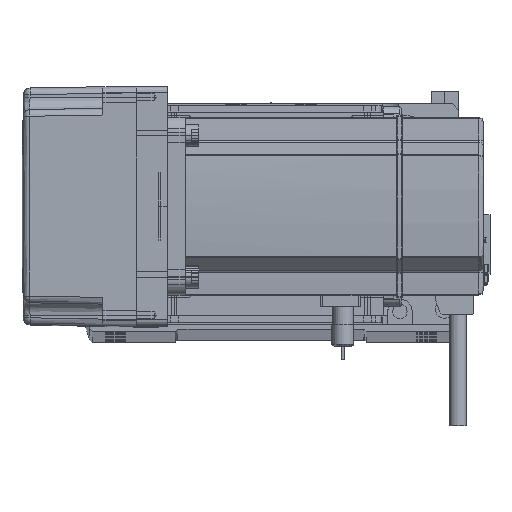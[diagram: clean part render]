
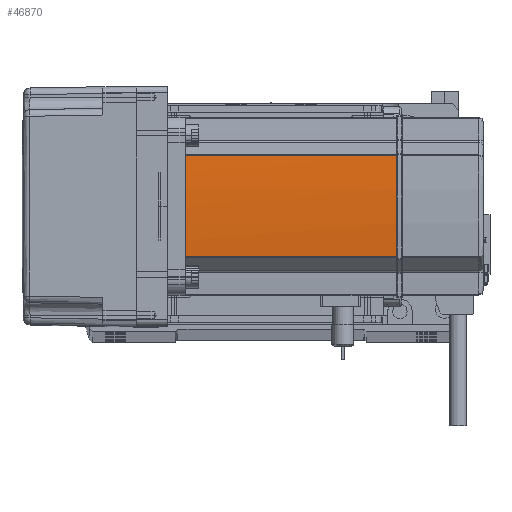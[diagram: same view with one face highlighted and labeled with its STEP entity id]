
A CAD part, top view. The second image highlights one B-rep face of the part: STEP entity #46870.
In plain terms, the highlighted cylindrical face has radius 270 mm (diameter 540 mm), a partial arc.
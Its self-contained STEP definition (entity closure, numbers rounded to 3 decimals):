
#3075 = CARTESIAN_POINT ( 'NONE',  ( 40., 0.127, 134. ) ) ;
#3572 = AXIS2_PLACEMENT_3D ( 'NONE', #25783, #60758, #50870 ) ;
#3838 = CIRCLE ( 'NONE', #10787, 270. ) ;
#5414 = LINE ( 'NONE', #45296, #62756 ) ;
#7434 = CARTESIAN_POINT ( 'NONE',  ( 39.042, -22.724, 58. ) ) ;
#8119 = CIRCLE ( 'NONE', #37743, 270. ) ;
#8228 = AXIS2_PLACEMENT_3D ( 'NONE', #42951, #28691, #23002 ) ;
#8327 = CARTESIAN_POINT ( 'NONE',  ( 40., -0.042, 134. ) ) ;
#10490 = VERTEX_POINT ( 'NONE', #25479 ) ;
#10787 = AXIS2_PLACEMENT_3D ( 'NONE', #65004, #44360, #14695 ) ;
#10842 = EDGE_CURVE ( 'NONE', #43451, #10490, #3838, .T. ) ;
#11343 = CARTESIAN_POINT ( 'NONE',  ( -230., 0., 39. ) ) ;
#12055 = CARTESIAN_POINT ( 'NONE',  ( 39.042, 22.724, 39. ) ) ;
#13349 = CARTESIAN_POINT ( 'NONE',  ( 40., 0.042, 134. ) ) ;
#14049 = CARTESIAN_POINT ( 'NONE',  ( 40., -0.127, 134. ) ) ;
#14695 = DIRECTION ( 'NONE',  ( -1., 0., 0. ) ) ;
#19059 = VECTOR ( 'NONE', #27582, 1000. ) ;
#19707 = CARTESIAN_POINT ( 'NONE',  ( 40., 0.127, 134. ) ) ;
#21439 = DIRECTION ( 'NONE',  ( 0., 0., -1. ) ) ;
#22768 = CARTESIAN_POINT ( 'NONE',  ( 39.042, -22.724, 39. ) ) ;
#23002 = DIRECTION ( 'NONE',  ( -1., 0., 0. ) ) ;
#25479 = CARTESIAN_POINT ( 'NONE',  ( 39.042, -22.724, 134. ) ) ;
#25783 = CARTESIAN_POINT ( 'NONE',  ( -230., 0., 134. ) ) ;
#26652 = EDGE_CURVE ( 'NONE', #10490, #44016, #63088, .T. ) ;
#27582 = DIRECTION ( 'NONE',  ( 0., 0., -1. ) ) ;
#28691 = DIRECTION ( 'NONE',  ( 0., 0., -1. ) ) ;
#33102 = FACE_OUTER_BOUND ( 'NONE', #47775, .T. ) ;
#34047 = B_SPLINE_CURVE_WITH_KNOTS ( 'NONE', 3,
 ( #39045, #8327, #13349, #3075 ),
 .UNSPECIFIED., .F., .F.,
 ( 4, 4 ),
 ( 0., 1. ),
 .UNSPECIFIED. ) ;
#37307 = ORIENTED_EDGE ( 'NONE', *, *, #10842, .T. ) ;
#37743 = AXIS2_PLACEMENT_3D ( 'NONE', #11343, #21439, #41391 ) ;
#38522 = VERTEX_POINT ( 'NONE', #12055 ) ;
#38638 = EDGE_CURVE ( 'NONE', #43451, #50833, #34047, .T. ) ;
#39045 = CARTESIAN_POINT ( 'NONE',  ( 40., -0.127, 134. ) ) ;
#39729 = EDGE_CURVE ( 'NONE', #38522, #47024, #5414, .T. ) ;
#41391 = DIRECTION ( 'NONE',  ( -1., 0., 0. ) ) ;
#42951 = CARTESIAN_POINT ( 'NONE',  ( -230., 0., 58. ) ) ;
#43451 = VERTEX_POINT ( 'NONE', #14049 ) ;
#44016 = VERTEX_POINT ( 'NONE', #22768 ) ;
#44360 = DIRECTION ( 'NONE',  ( 0., 0., -1. ) ) ;
#44923 = CARTESIAN_POINT ( 'NONE',  ( 39.042, 22.724, 134. ) ) ;
#45088 = DIRECTION ( 'NONE',  ( 0., 0., 1. ) ) ;
#45296 = CARTESIAN_POINT ( 'NONE',  ( 39.042, 22.724, 58. ) ) ;
#46870 = ADVANCED_FACE ( 'NONE', ( #33102 ), #47219, .T. ) ;
#47024 = VERTEX_POINT ( 'NONE', #44923 ) ;
#47219 = CYLINDRICAL_SURFACE ( 'NONE', #8228, 270. ) ;
#47775 = EDGE_LOOP ( 'NONE', ( #47841, #60252, #64959, #59382, #49063, #37307 ) ) ;
#47841 = ORIENTED_EDGE ( 'NONE', *, *, #26652, .T. ) ;
#49063 = ORIENTED_EDGE ( 'NONE', *, *, #38638, .F. ) ;
#50833 = VERTEX_POINT ( 'NONE', #19707 ) ;
#50870 = DIRECTION ( 'NONE',  ( -1., 0., 0. ) ) ;
#58848 = EDGE_CURVE ( 'NONE', #38522, #44016, #8119, .T. ) ;
#59382 = ORIENTED_EDGE ( 'NONE', *, *, #62326, .T. ) ;
#60252 = ORIENTED_EDGE ( 'NONE', *, *, #58848, .F. ) ;
#60758 = DIRECTION ( 'NONE',  ( 0., 0., -1. ) ) ;
#60850 = CIRCLE ( 'NONE', #3572, 270. ) ;
#62326 = EDGE_CURVE ( 'NONE', #47024, #50833, #60850, .T. ) ;
#62756 = VECTOR ( 'NONE', #45088, 1000. ) ;
#63088 = LINE ( 'NONE', #7434, #19059 ) ;
#64959 = ORIENTED_EDGE ( 'NONE', *, *, #39729, .T. ) ;
#65004 = CARTESIAN_POINT ( 'NONE',  ( -230., 0., 134. ) ) ;
